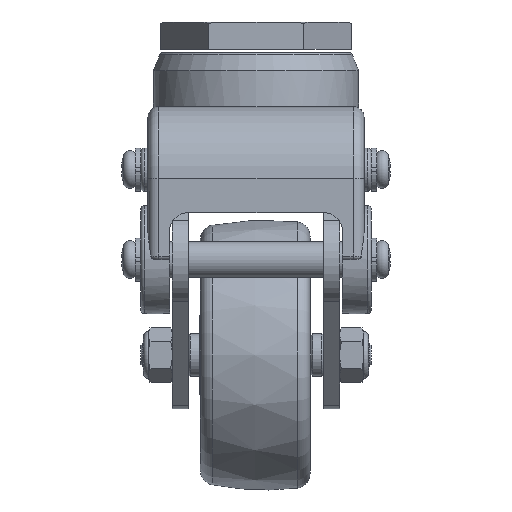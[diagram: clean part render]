
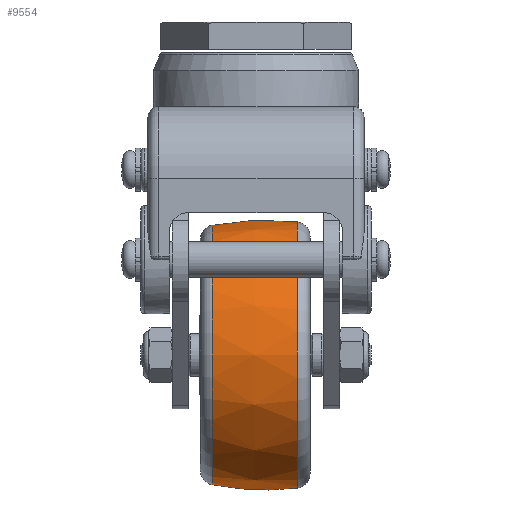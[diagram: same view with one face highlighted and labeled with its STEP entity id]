
A CAD part, left-side view. The second image highlights one B-rep face of the part: STEP entity #9554.
In plain terms, the highlighted free-form (B-spline) face has degree [2, 2] with [3, 9] control points.
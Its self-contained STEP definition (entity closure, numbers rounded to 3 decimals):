
#186=(
BOUNDED_SURFACE()
B_SPLINE_SURFACE(2,2,((#16106,#16107,#16108,#16109,#16110,#16111,#16112,
#16113,#16114),(#16115,#16116,#16117,#16118,#16119,#16120,#16121,#16122,
#16123),(#16124,#16125,#16126,#16127,#16128,#16129,#16130,#16131,#16132)),
 .UNSPECIFIED.,.F.,.T.,.F.)
B_SPLINE_SURFACE_WITH_KNOTS((3,3),(3,2,2,2,3),(-0.119,0.198),
(-3.142,-1.571,0.,1.571,3.142),
 .UNSPECIFIED.)
GEOMETRIC_REPRESENTATION_ITEM()
RATIONAL_B_SPLINE_SURFACE(((1.,0.707,1.,0.707,1.,
0.707,1.,0.707,1.),(0.987,0.698,
0.987,0.698,0.987,0.698,
0.987,0.698,0.987),(1.,0.707,
1.,0.707,1.,0.707,1.,0.707,1.)))
REPRESENTATION_ITEM('')
SURFACE()
);
#1296=FACE_OUTER_BOUND('',#1873,.T.);
#1873=EDGE_LOOP('',(#7505,#7506,#7507,#7508,#7509,#7510));
#2473=CIRCLE('',#10438,36.968);
#2474=CIRCLE('',#10439,36.968);
#2476=CIRCLE('',#10441,36.031);
#2477=CIRCLE('',#10442,36.031);
#2478=CIRCLE('',#10443,75.);
#4337=VERTEX_POINT('',#16101);
#4338=VERTEX_POINT('',#16102);
#4339=VERTEX_POINT('',#16133);
#4340=VERTEX_POINT('',#16134);
#5487=EDGE_CURVE('',#4337,#4338,#2473,.T.);
#5488=EDGE_CURVE('',#4338,#4337,#2474,.T.);
#5490=EDGE_CURVE('',#4339,#4340,#2476,.T.);
#5491=EDGE_CURVE('',#4340,#4339,#2477,.T.);
#5492=EDGE_CURVE('',#4340,#4338,#2478,.T.);
#7505=ORIENTED_EDGE('',*,*,#5490,.F.);
#7506=ORIENTED_EDGE('',*,*,#5491,.F.);
#7507=ORIENTED_EDGE('',*,*,#5492,.T.);
#7508=ORIENTED_EDGE('',*,*,#5488,.T.);
#7509=ORIENTED_EDGE('',*,*,#5487,.T.);
#7510=ORIENTED_EDGE('',*,*,#5492,.F.);
#9554=ADVANCED_FACE('',(#1296),#186,.F.);
#10438=AXIS2_PLACEMENT_3D('',#16103,#11961,#11962);
#10439=AXIS2_PLACEMENT_3D('',#16104,#11963,#11964);
#10441=AXIS2_PLACEMENT_3D('',#16135,#11967,#11968);
#10442=AXIS2_PLACEMENT_3D('',#16136,#11969,#11970);
#10443=AXIS2_PLACEMENT_3D('',#16137,#11971,#11972);
#11961=DIRECTION('center_axis',(0.,1.,0.));
#11962=DIRECTION('ref_axis',(1.,0.,0.));
#11963=DIRECTION('center_axis',(0.,1.,0.));
#11964=DIRECTION('ref_axis',(1.,0.,0.));
#11967=DIRECTION('center_axis',(0.,1.,0.));
#11968=DIRECTION('ref_axis',(1.,0.,0.));
#11969=DIRECTION('center_axis',(0.,1.,0.));
#11970=DIRECTION('ref_axis',(1.,0.,0.));
#11971=DIRECTION('center_axis',(-1.,0.,0.));
#11972=DIRECTION('ref_axis',(0.,0.,-1.));
#16101=CARTESIAN_POINT('',(0.,3.524,36.968));
#16102=CARTESIAN_POINT('',(0.,3.524,-36.968));
#16103=CARTESIAN_POINT('Origin',(0.,3.524,0.));
#16104=CARTESIAN_POINT('Origin',(0.,3.524,0.));
#16106=CARTESIAN_POINT('Ctrl Pts',(0.,3.524,-36.968));
#16107=CARTESIAN_POINT('Ctrl Pts',(-36.968,3.524,-36.968));
#16108=CARTESIAN_POINT('Ctrl Pts',(-36.968,3.524,0.));
#16109=CARTESIAN_POINT('Ctrl Pts',(-36.968,3.524,36.968));
#16110=CARTESIAN_POINT('Ctrl Pts',(0.,3.524,36.968));
#16111=CARTESIAN_POINT('Ctrl Pts',(36.968,3.524,36.968));
#16112=CARTESIAN_POINT('Ctrl Pts',(36.968,3.524,0.));
#16113=CARTESIAN_POINT('Ctrl Pts',(36.968,3.524,-36.968));
#16114=CARTESIAN_POINT('Ctrl Pts',(0.,3.524,-36.968));
#16115=CARTESIAN_POINT('Ctrl Pts',(0.,15.444,-38.395));
#16116=CARTESIAN_POINT('Ctrl Pts',(-38.395,15.444,-38.395));
#16117=CARTESIAN_POINT('Ctrl Pts',(-38.395,15.444,0.));
#16118=CARTESIAN_POINT('Ctrl Pts',(-38.395,15.444,38.395));
#16119=CARTESIAN_POINT('Ctrl Pts',(0.,15.444,38.395));
#16120=CARTESIAN_POINT('Ctrl Pts',(38.395,15.444,38.395));
#16121=CARTESIAN_POINT('Ctrl Pts',(38.395,15.444,0.));
#16122=CARTESIAN_POINT('Ctrl Pts',(38.395,15.444,-38.395));
#16123=CARTESIAN_POINT('Ctrl Pts',(0.,15.444,-38.395));
#16124=CARTESIAN_POINT('Ctrl Pts',(0.,27.214,-36.031));
#16125=CARTESIAN_POINT('Ctrl Pts',(-36.031,27.214,-36.031));
#16126=CARTESIAN_POINT('Ctrl Pts',(-36.031,27.214,0.));
#16127=CARTESIAN_POINT('Ctrl Pts',(-36.031,27.214,36.031));
#16128=CARTESIAN_POINT('Ctrl Pts',(0.,27.214,36.031));
#16129=CARTESIAN_POINT('Ctrl Pts',(36.031,27.214,36.031));
#16130=CARTESIAN_POINT('Ctrl Pts',(36.031,27.214,0.));
#16131=CARTESIAN_POINT('Ctrl Pts',(36.031,27.214,-36.031));
#16132=CARTESIAN_POINT('Ctrl Pts',(0.,27.214,-36.031));
#16133=CARTESIAN_POINT('',(0.,27.214,36.031));
#16134=CARTESIAN_POINT('',(0.,27.214,-36.031));
#16135=CARTESIAN_POINT('Origin',(0.,27.214,0.));
#16136=CARTESIAN_POINT('Origin',(0.,27.214,0.));
#16137=CARTESIAN_POINT('Origin',(0.,12.442,
37.5));
